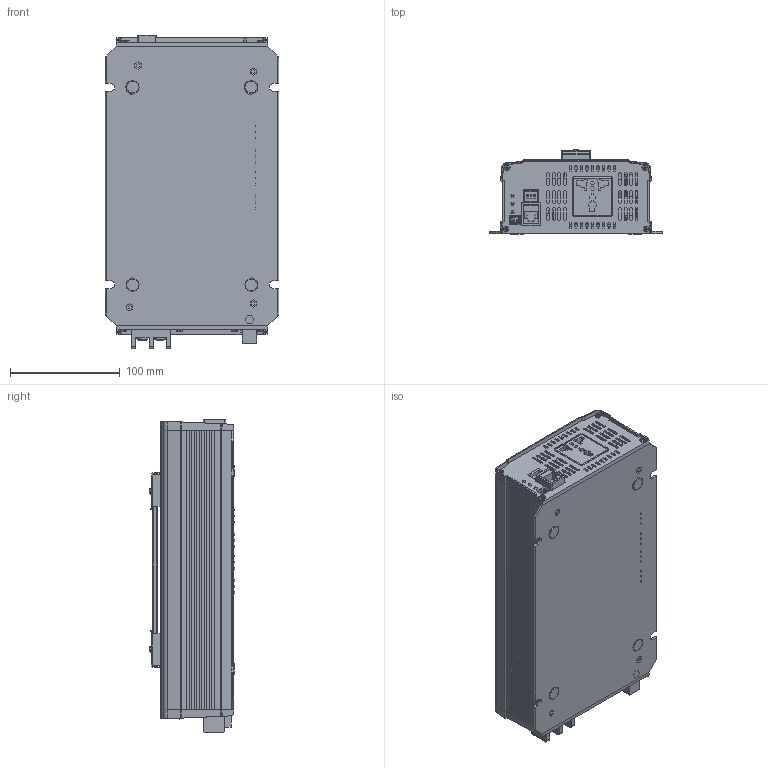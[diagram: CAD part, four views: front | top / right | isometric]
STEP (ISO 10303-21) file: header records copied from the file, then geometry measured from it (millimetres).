
FILE_DESCRIPTION(('Creo Elements/Direct Modeling STEP Export'),'2;1');
FILE_NAME('NTS-750UN.stp','2021-04-16T19:26:57',(''),(''),'PTC Creo Elements/Direct Modeling STEP processor for AP214 (Solid Model)','PTC Creo Elements/Direct Modeling 19.0A 04-Oct-2014 (C) Parametric Technology GmbH','');
FILE_SCHEMA(('AUTOMOTIVE_DESIGN { 1 0 10303 214 1 1 1 1 }'));
Length unit declared in the file: millimetre
Products named in the file (154): 上盖; 下盖; M3-6.5L; M3-6.5L.1; M3-6.5L.1.1; M3-6.5L.1.1.1; 77; CASE; 1XX3NTS-750-I-20201103.prt; 1XX3NTS-750-I; NTS-750面板; 19-30286-1312__w__.1.1.1.1; 19-30286-1312__w__.1.1.1; 19-30286-1312__w__.1; 19-30286-1312__w__.1.1; 装配2; 19-30281-0250__w__.2.1; 19-30281-0250__w__.2.1.1; 装配2.1; 19-30281-0250__w__.2.1.1.1; 19-30286-1312__w__.1.1.2; 19-30286-1312__w__.1.1.2.1; 装配2.1.1; 螺丝; C.2; C.3; C.1; A.ASM; MHS-2.PRT; _S___S_C_S_Y_S___X2_02C6_X0_O.PRT; _S_Y_S_Q_S___S__.PRT; A3.ASM; PCB_5.ASM; _S___S_G_S_NA_S___S_H_X2_02DC_X.PRT.1; _S___S_U_S_KX.ASM; JS100107_1.PRT; PCB2.ASM; PCB1.PRT; A2-351950.PRT; ALL.ASM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
Assembly tree (154 placements, depth 8):
  NTS-750
    万国插
    1XX3NTS-750CN-O
    固纬把手
      174
      guwei1
      guwei1.1
    装配1
      1GG
        1GG4CU-SZ031.1
        1GG1HS-SZ135
        1GG4CU-SZ032.1
        1GG4CU-SZ032
        1GG4CU-SZ031
        1GG1HS-SZ133
          DDD.1
          DDD
          SZ133
      1HH2
        1HH2NTS-750
        1HH2-FR4
        1HH2283A
        1HH176x25.6x0.3
      MOS1
        p3
        温度开关
        TO220-1.2.2.2.1.1.1.1
        TO220-1.2.2.2.1.1.1
        TO220-1.2.2.2.1.1
        TO220-1.2.2.2.1
        TO220-1.2.2.2
        TO220-1.2.2
      MOS
        TO247.1.1
        TO247
        MS1
        MS1.1
        TO247.1
        TO247.1.1.1
        MS1.1.1.1
        MS1.1.1
        TO220-1.2.1.1
        TO220-1.2.1
        TO220-1.2.1.1.1
        TO220-1.2
      TF
      PAD
        FOOT_PAD_7_1.PRT.30
        FOOT_PAD_7_1.PRT.31
        FOOT_PAD_7_1.PRT
        FOOT_PAD_7_1.PRT.29
      PCB
        PCBB
        PCBC
        PCBA
      小卡装配OK
        DH2L-20
          2.1.1.1.1
          2.1.1.1
          2.1.1
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Bounding box: 158 x 77.87 x 286.01 mm (x, y, z)
Topology: 113 solids, 116 shells, 4124 faces, 10596 edges, 6811 vertices
Faces by surface type: plane 2686, cylinder 888, cone 303, bspline 146, torus 56, sphere 44, extrusion 1
Entity records: 146694 total; most frequent: CARTESIAN_POINT 44954, ORIENTED_EDGE 21100, DIRECTION 18889, EDGE_CURVE 10536, VECTOR 7141, LINE 7140, VERTEX_POINT 6814, AXIS2_PLACEMENT_3D 5874
